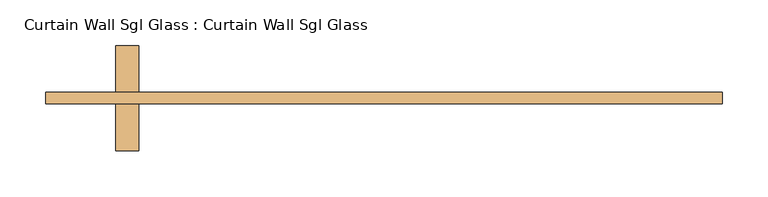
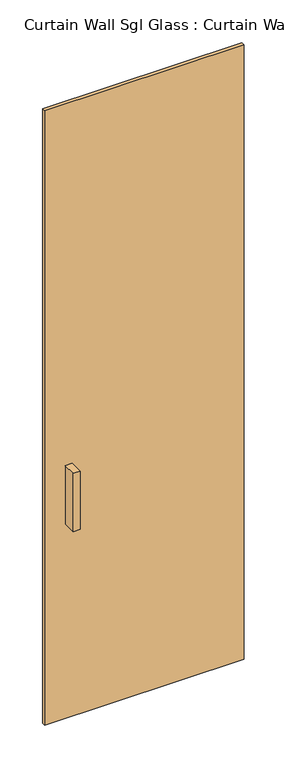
"""IFC4 building model written with IfcOpenShell, lengths in millimetres: door geometry, Curtain Wall Sgl Glass : Curtain Wall Sgl Glass."""

from ifc_helpers import new_model, si_unit, frame, origin, origin_with_axes, place, context, project, spatial, polyline, outline, extrude, source, transform, mapped, element, save


def curtain_wall_sgl_glass_curtain_wall_sgl_glass_5192a5a3(model_context):
    return source(origin(), model_context, "Body", "SweptSolid", [
        extrude(outline(polyline([(-267.97, -12.7), (-293.37, -12.7), (-293.37, 38.1), (-267.97, 38.1), (-267.97, -12.7)])), frame((0.0, 0.0, 762.0), z_axis=(0.0, 0.0, 1.0), x_axis=(1.0, 0.0, 0.0)), (0.0, 0.0, 1.0), 228.6),
        extrude(outline(polyline([(-293.37, 101.6), (-267.97, 101.6), (-267.97, 50.8), (-293.37, 50.8), (-293.37, 101.6)])), frame((0.0, 0.0, 762.0), z_axis=(0.0, 0.0, 1.0), x_axis=(1.0, 0.0, 0.0)), (0.0, 0.0, 1.0), 228.6),
        extrude(outline(polyline([(369.57, 50.8), (369.57, 38.1), (-369.57, 38.1), (-369.57, 50.8), (369.57, 50.8)])), origin_with_axes(), (0.0, 0.0, 1.0), 2406.65),
    ])


if __name__ == "__main__":
    model = new_model("IFC4")
    model_context = context("Model", 3, world=origin())
    ifc_project = project(units=[si_unit("LENGTHUNIT", "METRE", prefix="MILLI")], contexts=[model_context])
    site = spatial("IfcSite", under=ifc_project)
    building = spatial("IfcBuilding", under=site)
    placement = place(None, origin())
    curtain_wall_sgl_glass_curtain_wall_sgl_glass_shape = curtain_wall_sgl_glass_curtain_wall_sgl_glass_5192a5a3(model_context)
    element("IfcDoor", 1, ObjectType="Curtain Wall Sgl Glass : Curtain Wall Sgl Glass", at=placement, inside=building, context=model_context, shape_type="MappedRepresentation", body=[
        mapped(curtain_wall_sgl_glass_curtain_wall_sgl_glass_shape, transform((0.0, 0.0, 0.0), x_axis=(1.0, 0.0, 0.0), y_axis=(0.0, 1.0, 0.0), z_axis=(0.0, 0.0, 1.0))),
    ])
    save(model, "model.ifc")
